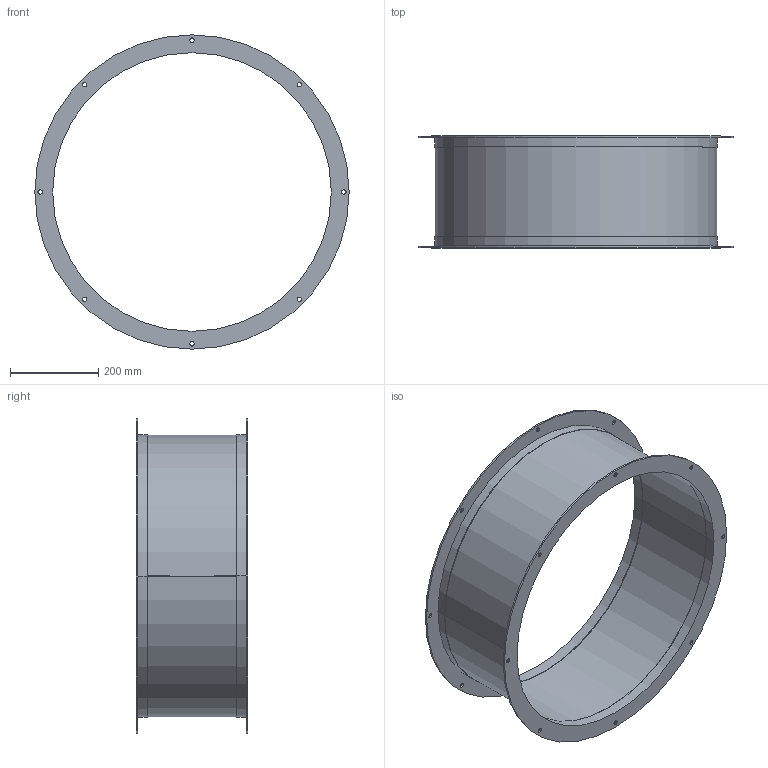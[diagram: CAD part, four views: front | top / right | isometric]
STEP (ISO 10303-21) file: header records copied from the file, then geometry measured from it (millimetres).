
FILE_DESCRIPTION(('STEP AP214'),'1');
FILE_NAME('accessory_5136836300.stp','2017-10-09T08:00:47',('TraceParts'),('TraceParts S.A.'),'Spatial InterOp 3D',' ',' ');
FILE_SCHEMA(('automotive_design'));
Length unit declared in the file: millimetre
Products named in the file (1): accessory_5136836300
Bounding box: 714 x 254 x 714 mm (x, y, z)
Volume: 1833201 mm3; surface area: 1352703.8 mm2
Topology: 1 solids, 1 shells, 56 faces, 144 edges, 96 vertices
Faces by surface type: cylinder 48, plane 8
Entity records: 2296 total; most frequent: DIRECTION 354, CARTESIAN_POINT 297, ORIENTED_EDGE 288, AXIS2_PLACEMENT_3D 153, EDGE_CURVE 144, EDGE_LOOP 96, VERTEX_POINT 96, CIRCLE 96
